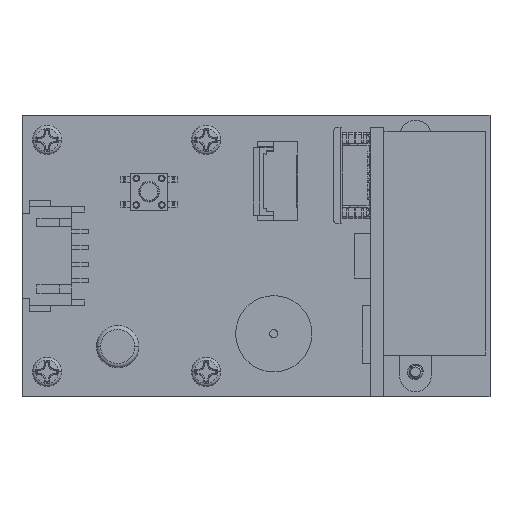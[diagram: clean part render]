
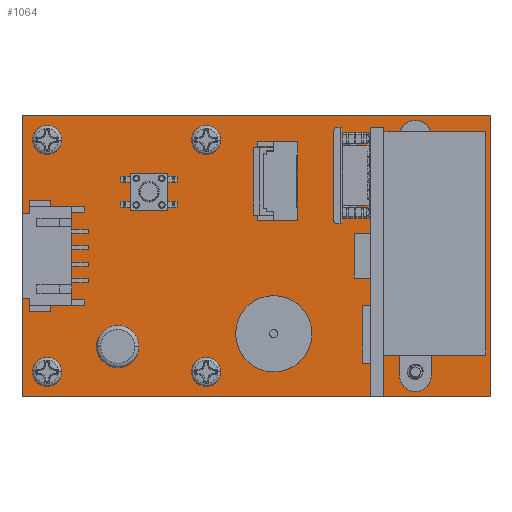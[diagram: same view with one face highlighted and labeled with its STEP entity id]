
A CAD part, top view. The second image highlights one B-rep face of the part: STEP entity #1064.
In plain terms, the highlighted planar face has unit normal (0, 0, 1).
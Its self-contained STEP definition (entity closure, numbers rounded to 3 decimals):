
#42=DIRECTION('',(0.,-1.,0.));
#43=VECTOR('',#42,34.);
#44=CARTESIAN_POINT('',(-28.25,17.,0.));
#45=LINE('',#44,#43);
#50=DIRECTION('',(-1.,0.,0.));
#51=VECTOR('',#50,56.5);
#52=CARTESIAN_POINT('',(28.25,17.,0.));
#53=LINE('',#52,#51);
#57=DIRECTION('',(0.,1.,0.));
#58=VECTOR('',#57,34.);
#59=CARTESIAN_POINT('',(28.25,-17.,0.));
#60=LINE('',#59,#58);
#64=DIRECTION('',(1.,0.,0.));
#65=VECTOR('',#64,56.5);
#66=CARTESIAN_POINT('',(-28.25,-17.,0.));
#67=LINE('',#66,#65);
#71=CARTESIAN_POINT('',(-25.23,14.,0.));
#72=DIRECTION('',(0.,0.,1.));
#73=DIRECTION('',(1.,0.,0.));
#74=AXIS2_PLACEMENT_3D('',#71,#72,#73);
#79=CARTESIAN_POINT('',(-25.23,14.,0.));
#80=DIRECTION('',(0.,0.,1.));
#81=DIRECTION('',(-1.,0.,0.));
#82=AXIS2_PLACEMENT_3D('',#79,#80,#81);
#87=CARTESIAN_POINT('',(-6.03,14.,0.));
#88=DIRECTION('',(0.,0.,1.));
#89=DIRECTION('',(1.,0.,0.));
#90=AXIS2_PLACEMENT_3D('',#87,#88,#89);
#95=CARTESIAN_POINT('',(-6.03,14.,0.));
#96=DIRECTION('',(0.,0.,1.));
#97=DIRECTION('',(-1.,0.,0.));
#98=AXIS2_PLACEMENT_3D('',#95,#96,#97);
#103=CARTESIAN_POINT('',(-25.23,-14.,0.));
#104=DIRECTION('',(0.,0.,1.));
#105=DIRECTION('',(1.,0.,0.));
#106=AXIS2_PLACEMENT_3D('',#103,#104,#105);
#111=CARTESIAN_POINT('',(-25.23,-14.,0.));
#112=DIRECTION('',(0.,0.,1.));
#113=DIRECTION('',(-1.,0.,0.));
#114=AXIS2_PLACEMENT_3D('',#111,#112,#113);
#119=CARTESIAN_POINT('',(-6.03,-14.,0.));
#120=DIRECTION('',(0.,0.,1.));
#121=DIRECTION('',(1.,0.,0.));
#122=AXIS2_PLACEMENT_3D('',#119,#120,#121);
#127=CARTESIAN_POINT('',(-6.03,-14.,0.));
#128=DIRECTION('',(0.,0.,1.));
#129=DIRECTION('',(-1.,0.,0.));
#130=AXIS2_PLACEMENT_3D('',#127,#128,#129);
#135=CARTESIAN_POINT('',(2.15,-9.4,0.));
#136=DIRECTION('',(0.,0.,1.));
#137=DIRECTION('',(1.,0.,0.));
#138=AXIS2_PLACEMENT_3D('',#135,#136,#137);
#143=CARTESIAN_POINT('',(2.15,-9.4,0.));
#144=DIRECTION('',(0.,0.,1.));
#145=DIRECTION('',(-1.,0.,0.));
#146=AXIS2_PLACEMENT_3D('',#143,#144,#145);
#151=CARTESIAN_POINT('',(-16.7,-10.95,0.));
#152=DIRECTION('',(0.,0.,1.));
#153=DIRECTION('',(1.,0.,0.));
#154=AXIS2_PLACEMENT_3D('',#151,#152,#153);
#159=CARTESIAN_POINT('',(-16.7,-10.95,0.));
#160=DIRECTION('',(0.,0.,1.));
#161=DIRECTION('',(-1.,0.,0.));
#162=AXIS2_PLACEMENT_3D('',#159,#160,#161);
#167=CARTESIAN_POINT('',(19.25,14.,0.));
#168=DIRECTION('',(0.,0.,1.));
#169=DIRECTION('',(1.,0.,0.));
#170=AXIS2_PLACEMENT_3D('',#167,#168,#169);
#175=CARTESIAN_POINT('',(19.25,14.,0.));
#176=DIRECTION('',(0.,0.,1.));
#177=DIRECTION('',(-1.,0.,0.));
#178=AXIS2_PLACEMENT_3D('',#175,#176,#177);
#183=CARTESIAN_POINT('',(19.25,-14.,0.));
#184=DIRECTION('',(0.,0.,1.));
#185=DIRECTION('',(1.,0.,0.));
#186=AXIS2_PLACEMENT_3D('',#183,#184,#185);
#191=CARTESIAN_POINT('',(19.25,-14.,0.));
#192=DIRECTION('',(0.,0.,1.));
#193=DIRECTION('',(-1.,0.,0.));
#194=AXIS2_PLACEMENT_3D('',#191,#192,#193);
#199=CARTESIAN_POINT('',(19.25,11.,0.));
#200=DIRECTION('',(0.,0.,1.));
#201=DIRECTION('',(1.,0.,0.));
#202=AXIS2_PLACEMENT_3D('',#199,#200,#201);
#207=CARTESIAN_POINT('',(19.25,11.,0.));
#208=DIRECTION('',(0.,0.,1.));
#209=DIRECTION('',(-1.,0.,0.));
#210=AXIS2_PLACEMENT_3D('',#207,#208,#209);
#215=CARTESIAN_POINT('',(19.25,-11.,0.));
#216=DIRECTION('',(0.,0.,1.));
#217=DIRECTION('',(1.,0.,0.));
#218=AXIS2_PLACEMENT_3D('',#215,#216,#217);
#223=CARTESIAN_POINT('',(19.25,-11.,0.));
#224=DIRECTION('',(0.,0.,1.));
#225=DIRECTION('',(-1.,0.,0.));
#226=AXIS2_PLACEMENT_3D('',#223,#224,#225);
#849=CARTESIAN_POINT('',(-28.25,17.,0.));
#850=CARTESIAN_POINT('',(-28.25,-17.,0.));
#851=VERTEX_POINT('',#849);
#852=VERTEX_POINT('',#850);
#853=CARTESIAN_POINT('',(28.25,-17.,0.));
#854=VERTEX_POINT('',#853);
#855=CARTESIAN_POINT('',(28.25,17.,0.));
#856=VERTEX_POINT('',#855);
#865=CARTESIAN_POINT('',(-24.38,14.,0.));
#866=CARTESIAN_POINT('',(-26.08,14.,0.));
#867=VERTEX_POINT('',#865);
#868=VERTEX_POINT('',#866);
#869=CARTESIAN_POINT('',(-5.18,14.,0.));
#870=CARTESIAN_POINT('',(-6.88,14.,0.));
#871=VERTEX_POINT('',#869);
#872=VERTEX_POINT('',#870);
#873=CARTESIAN_POINT('',(-24.38,-14.,0.));
#874=CARTESIAN_POINT('',(-26.08,-14.,0.));
#875=VERTEX_POINT('',#873);
#876=VERTEX_POINT('',#874);
#877=CARTESIAN_POINT('',(-5.18,-14.,0.));
#878=CARTESIAN_POINT('',(-6.88,-14.,0.));
#879=VERTEX_POINT('',#877);
#880=VERTEX_POINT('',#878);
#885=CARTESIAN_POINT('',(6.75,-9.4,0.));
#886=CARTESIAN_POINT('',(-2.45,-9.4,0.));
#887=VERTEX_POINT('',#885);
#888=VERTEX_POINT('',#886);
#945=CARTESIAN_POINT('',(-14.15,-10.95,0.));
#946=CARTESIAN_POINT('',(-19.25,-10.95,0.));
#947=VERTEX_POINT('',#945);
#948=VERTEX_POINT('',#946);
#957=CARTESIAN_POINT('',(20.35,14.,0.));
#958=CARTESIAN_POINT('',(18.15,14.,0.));
#959=VERTEX_POINT('',#957);
#960=VERTEX_POINT('',#958);
#961=CARTESIAN_POINT('',(20.35,-14.,0.));
#962=CARTESIAN_POINT('',(18.15,-14.,0.));
#963=VERTEX_POINT('',#961);
#964=VERTEX_POINT('',#962);
#973=CARTESIAN_POINT('',(19.8,11.,0.));
#974=CARTESIAN_POINT('',(18.7,11.,0.));
#975=VERTEX_POINT('',#973);
#976=VERTEX_POINT('',#974);
#977=CARTESIAN_POINT('',(19.8,-11.,0.));
#978=CARTESIAN_POINT('',(18.7,-11.,0.));
#979=VERTEX_POINT('',#977);
#980=VERTEX_POINT('',#978);
#989=CARTESIAN_POINT('',(0.,0.,0.));
#990=DIRECTION('',(0.,0.,1.));
#991=DIRECTION('',(1.,0.,0.));
#992=AXIS2_PLACEMENT_3D('',#989,#990,#991);
#993=PLANE('',#992);
#995=ORIENTED_EDGE('',*,*,#994,.F.);
#997=ORIENTED_EDGE('',*,*,#996,.F.);
#999=ORIENTED_EDGE('',*,*,#998,.F.);
#1001=ORIENTED_EDGE('',*,*,#1000,.F.);
#1002=EDGE_LOOP('',(#995,#997,#999,#1001));
#1003=FACE_OUTER_BOUND('',#1002,.F.);
#1005=ORIENTED_EDGE('',*,*,#1004,.T.);
#1007=ORIENTED_EDGE('',*,*,#1006,.T.);
#1008=EDGE_LOOP('',(#1005,#1007));
#1009=FACE_BOUND('',#1008,.F.);
#1011=ORIENTED_EDGE('',*,*,#1010,.T.);
#1013=ORIENTED_EDGE('',*,*,#1012,.T.);
#1014=EDGE_LOOP('',(#1011,#1013));
#1015=FACE_BOUND('',#1014,.F.);
#1017=ORIENTED_EDGE('',*,*,#1016,.T.);
#1019=ORIENTED_EDGE('',*,*,#1018,.T.);
#1020=EDGE_LOOP('',(#1017,#1019));
#1021=FACE_BOUND('',#1020,.F.);
#1023=ORIENTED_EDGE('',*,*,#1022,.T.);
#1025=ORIENTED_EDGE('',*,*,#1024,.T.);
#1026=EDGE_LOOP('',(#1023,#1025));
#1027=FACE_BOUND('',#1026,.F.);
#1029=ORIENTED_EDGE('',*,*,#1028,.T.);
#1031=ORIENTED_EDGE('',*,*,#1030,.T.);
#1032=EDGE_LOOP('',(#1029,#1031));
#1033=FACE_BOUND('',#1032,.F.);
#1035=ORIENTED_EDGE('',*,*,#1034,.T.);
#1037=ORIENTED_EDGE('',*,*,#1036,.T.);
#1038=EDGE_LOOP('',(#1035,#1037));
#1039=FACE_BOUND('',#1038,.F.);
#1041=ORIENTED_EDGE('',*,*,#1040,.T.);
#1043=ORIENTED_EDGE('',*,*,#1042,.T.);
#1044=EDGE_LOOP('',(#1041,#1043));
#1045=FACE_BOUND('',#1044,.F.);
#1047=ORIENTED_EDGE('',*,*,#1046,.T.);
#1049=ORIENTED_EDGE('',*,*,#1048,.T.);
#1050=EDGE_LOOP('',(#1047,#1049));
#1051=FACE_BOUND('',#1050,.F.);
#1053=ORIENTED_EDGE('',*,*,#1052,.T.);
#1055=ORIENTED_EDGE('',*,*,#1054,.T.);
#1056=EDGE_LOOP('',(#1053,#1055));
#1057=FACE_BOUND('',#1056,.F.);
#1059=ORIENTED_EDGE('',*,*,#1058,.T.);
#1061=ORIENTED_EDGE('',*,*,#1060,.T.);
#1062=EDGE_LOOP('',(#1059,#1061));
#1063=FACE_BOUND('',#1062,.F.);
#1064=ADVANCED_FACE('',(#1003,#1009,#1015,#1021,#1027,#1033,#1039,#1045,#1051,
#1057,#1063),#993,.T.);
#75=CIRCLE('',#74,0.85);
#83=CIRCLE('',#82,0.85);
#91=CIRCLE('',#90,0.85);
#99=CIRCLE('',#98,0.85);
#107=CIRCLE('',#106,0.85);
#115=CIRCLE('',#114,0.85);
#123=CIRCLE('',#122,0.85);
#131=CIRCLE('',#130,0.85);
#139=CIRCLE('',#138,4.6);
#147=CIRCLE('',#146,4.6);
#155=CIRCLE('',#154,2.55);
#163=CIRCLE('',#162,2.55);
#171=CIRCLE('',#170,1.1);
#179=CIRCLE('',#178,1.1);
#187=CIRCLE('',#186,1.1);
#195=CIRCLE('',#194,1.1);
#203=CIRCLE('',#202,0.55);
#211=CIRCLE('',#210,0.55);
#219=CIRCLE('',#218,0.55);
#227=CIRCLE('',#226,0.55);
#994=EDGE_CURVE('',#851,#852,#45,.T.);
#996=EDGE_CURVE('',#856,#851,#53,.T.);
#998=EDGE_CURVE('',#854,#856,#60,.T.);
#1000=EDGE_CURVE('',#852,#854,#67,.T.);
#1004=EDGE_CURVE('',#867,#868,#75,.T.);
#1006=EDGE_CURVE('',#868,#867,#83,.T.);
#1010=EDGE_CURVE('',#871,#872,#91,.T.);
#1012=EDGE_CURVE('',#872,#871,#99,.T.);
#1016=EDGE_CURVE('',#875,#876,#107,.T.);
#1018=EDGE_CURVE('',#876,#875,#115,.T.);
#1022=EDGE_CURVE('',#879,#880,#123,.T.);
#1024=EDGE_CURVE('',#880,#879,#131,.T.);
#1028=EDGE_CURVE('',#887,#888,#139,.T.);
#1030=EDGE_CURVE('',#888,#887,#147,.T.);
#1034=EDGE_CURVE('',#947,#948,#155,.T.);
#1036=EDGE_CURVE('',#948,#947,#163,.T.);
#1040=EDGE_CURVE('',#959,#960,#171,.T.);
#1042=EDGE_CURVE('',#960,#959,#179,.T.);
#1046=EDGE_CURVE('',#963,#964,#187,.T.);
#1048=EDGE_CURVE('',#964,#963,#195,.T.);
#1052=EDGE_CURVE('',#975,#976,#203,.T.);
#1054=EDGE_CURVE('',#976,#975,#211,.T.);
#1058=EDGE_CURVE('',#979,#980,#219,.T.);
#1060=EDGE_CURVE('',#980,#979,#227,.T.);
